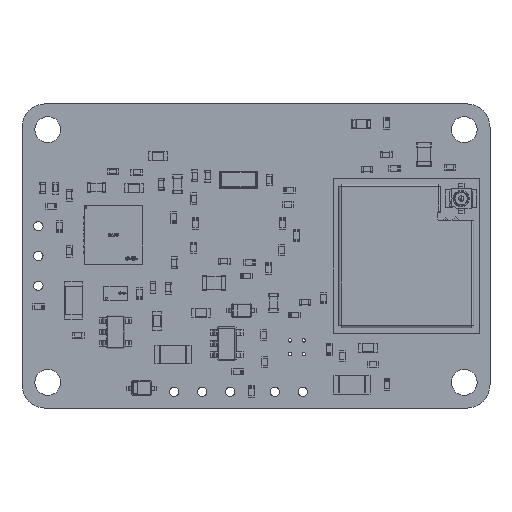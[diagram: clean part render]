
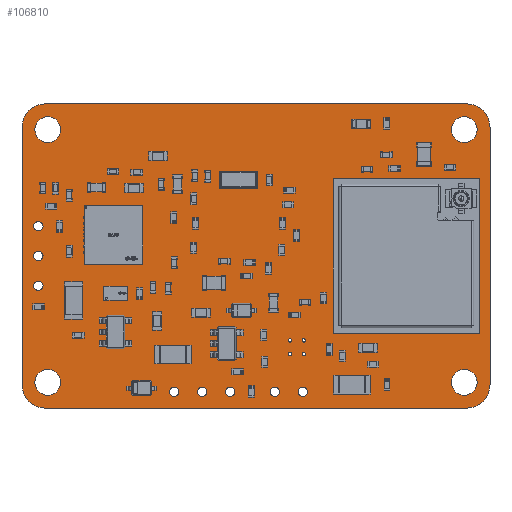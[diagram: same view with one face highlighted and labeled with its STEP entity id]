
A CAD part, top view. The second image highlights one B-rep face of the part: STEP entity #106810.
In plain terms, the highlighted planar face has unit normal (0, 0, 1).
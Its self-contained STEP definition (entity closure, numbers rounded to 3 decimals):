
#106485 = VERTEX_POINT('',#106486);
#106486 = CARTESIAN_POINT('',(118.,13.,0.91));
#106492 = EDGE_CURVE('',#106485,#106493,#106495,.T.);
#106493 = VERTEX_POINT('',#106494);
#106494 = CARTESIAN_POINT('',(120.,11.,0.91));
#106495 = CIRCLE('',#106496,2.);
#106496 = AXIS2_PLACEMENT_3D('',#106497,#106498,#106499);
#106497 = CARTESIAN_POINT('',(118.,11.,0.91));
#106498 = DIRECTION('',(0.,0.,-1.));
#106499 = DIRECTION('',(0.,1.,0.));
#106527 = VERTEX_POINT('',#106528);
#106528 = CARTESIAN_POINT('',(82.,13.,0.91));
#106534 = EDGE_CURVE('',#106527,#106485,#106535,.T.);
#106535 = LINE('',#106536,#106537);
#106536 = CARTESIAN_POINT('',(82.,13.,0.91));
#106537 = VECTOR('',#106538,1.);
#106538 = DIRECTION('',(1.,0.,0.));
#106556 = EDGE_CURVE('',#106493,#106557,#106559,.T.);
#106557 = VERTEX_POINT('',#106558);
#106558 = CARTESIAN_POINT('',(120.,-11.,0.91));
#106559 = LINE('',#106560,#106561);
#106560 = CARTESIAN_POINT('',(120.,11.,0.91));
#106561 = VECTOR('',#106562,1.);
#106562 = DIRECTION('',(0.,-1.,0.));
#106810 = ADVANCED_FACE('',(#106811,#106857,#106868,#106879,#106890,
    #106901,#106912,#106923,#106934,#106945,#106956,#106967,#106978,
    #106989,#107000,#107011,#107022),#107033,.T.);
#106811 = FACE_BOUND('',#106812,.T.);
#106812 = EDGE_LOOP('',(#106813,#106814,#106815,#106824,#106832,#106841,
    #106849,#106856));
#106813 = ORIENTED_EDGE('',*,*,#106492,.F.);
#106814 = ORIENTED_EDGE('',*,*,#106534,.F.);
#106815 = ORIENTED_EDGE('',*,*,#106816,.F.);
#106816 = EDGE_CURVE('',#106817,#106527,#106819,.T.);
#106817 = VERTEX_POINT('',#106818);
#106818 = CARTESIAN_POINT('',(80.,11.,0.91));
#106819 = CIRCLE('',#106820,2.);
#106820 = AXIS2_PLACEMENT_3D('',#106821,#106822,#106823);
#106821 = CARTESIAN_POINT('',(82.,11.,0.91));
#106822 = DIRECTION('',(0.,0.,-1.));
#106823 = DIRECTION('',(-1.,0.,-0.));
#106824 = ORIENTED_EDGE('',*,*,#106825,.F.);
#106825 = EDGE_CURVE('',#106826,#106817,#106828,.T.);
#106826 = VERTEX_POINT('',#106827);
#106827 = CARTESIAN_POINT('',(80.,-11.,0.91));
#106828 = LINE('',#106829,#106830);
#106829 = CARTESIAN_POINT('',(80.,-11.,0.91));
#106830 = VECTOR('',#106831,1.);
#106831 = DIRECTION('',(0.,1.,0.));
#106832 = ORIENTED_EDGE('',*,*,#106833,.F.);
#106833 = EDGE_CURVE('',#106834,#106826,#106836,.T.);
#106834 = VERTEX_POINT('',#106835);
#106835 = CARTESIAN_POINT('',(82.,-13.,0.91));
#106836 = CIRCLE('',#106837,2.);
#106837 = AXIS2_PLACEMENT_3D('',#106838,#106839,#106840);
#106838 = CARTESIAN_POINT('',(82.,-11.,0.91));
#106839 = DIRECTION('',(0.,0.,-1.));
#106840 = DIRECTION('',(0.,-1.,0.));
#106841 = ORIENTED_EDGE('',*,*,#106842,.F.);
#106842 = EDGE_CURVE('',#106843,#106834,#106845,.T.);
#106843 = VERTEX_POINT('',#106844);
#106844 = CARTESIAN_POINT('',(118.,-13.,0.91));
#106845 = LINE('',#106846,#106847);
#106846 = CARTESIAN_POINT('',(118.,-13.,0.91));
#106847 = VECTOR('',#106848,1.);
#106848 = DIRECTION('',(-1.,0.,0.));
#106849 = ORIENTED_EDGE('',*,*,#106850,.F.);
#106850 = EDGE_CURVE('',#106557,#106843,#106851,.T.);
#106851 = CIRCLE('',#106852,2.);
#106852 = AXIS2_PLACEMENT_3D('',#106853,#106854,#106855);
#106853 = CARTESIAN_POINT('',(118.,-11.,0.91));
#106854 = DIRECTION('',(0.,0.,-1.));
#106855 = DIRECTION('',(1.,0.,0.));
#106856 = ORIENTED_EDGE('',*,*,#106556,.F.);
#106857 = FACE_BOUND('',#106858,.T.);
#106858 = EDGE_LOOP('',(#106859));
#106859 = ORIENTED_EDGE('',*,*,#106860,.T.);
#106860 = EDGE_CURVE('',#106861,#106861,#106863,.T.);
#106861 = VERTEX_POINT('',#106862);
#106862 = CARTESIAN_POINT('',(82.2,-11.9,0.91));
#106863 = CIRCLE('',#106864,1.1);
#106864 = AXIS2_PLACEMENT_3D('',#106865,#106866,#106867);
#106865 = CARTESIAN_POINT('',(82.2,-10.8,0.91));
#106866 = DIRECTION('',(-0.,0.,-1.));
#106867 = DIRECTION('',(0.,-1.,-0.));
#106868 = FACE_BOUND('',#106869,.T.);
#106869 = EDGE_LOOP('',(#106870));
#106870 = ORIENTED_EDGE('',*,*,#106871,.T.);
#106871 = EDGE_CURVE('',#106872,#106872,#106874,.T.);
#106872 = VERTEX_POINT('',#106873);
#106873 = CARTESIAN_POINT('',(93.,-12.,0.91));
#106874 = CIRCLE('',#106875,0.4);
#106875 = AXIS2_PLACEMENT_3D('',#106876,#106877,#106878);
#106876 = CARTESIAN_POINT('',(93.,-11.6,0.91));
#106877 = DIRECTION('',(-0.,0.,-1.));
#106878 = DIRECTION('',(-0.,-1.,0.));
#106879 = FACE_BOUND('',#106880,.T.);
#106880 = EDGE_LOOP('',(#106881));
#106881 = ORIENTED_EDGE('',*,*,#106882,.T.);
#106882 = EDGE_CURVE('',#106883,#106883,#106885,.T.);
#106883 = VERTEX_POINT('',#106884);
#106884 = CARTESIAN_POINT('',(95.4,-12.,0.91));
#106885 = CIRCLE('',#106886,0.4);
#106886 = AXIS2_PLACEMENT_3D('',#106887,#106888,#106889);
#106887 = CARTESIAN_POINT('',(95.4,-11.6,0.91));
#106888 = DIRECTION('',(-0.,0.,-1.));
#106889 = DIRECTION('',(-0.,-1.,0.));
#106890 = FACE_BOUND('',#106891,.T.);
#106891 = EDGE_LOOP('',(#106892));
#106892 = ORIENTED_EDGE('',*,*,#106893,.T.);
#106893 = EDGE_CURVE('',#106894,#106894,#106896,.T.);
#106894 = VERTEX_POINT('',#106895);
#106895 = CARTESIAN_POINT('',(97.8,-12.,0.91));
#106896 = CIRCLE('',#106897,0.4);
#106897 = AXIS2_PLACEMENT_3D('',#106898,#106899,#106900);
#106898 = CARTESIAN_POINT('',(97.8,-11.6,0.91));
#106899 = DIRECTION('',(-0.,0.,-1.));
#106900 = DIRECTION('',(0.,-1.,0.));
#106901 = FACE_BOUND('',#106902,.T.);
#106902 = EDGE_LOOP('',(#106903));
#106903 = ORIENTED_EDGE('',*,*,#106904,.T.);
#106904 = EDGE_CURVE('',#106905,#106905,#106907,.T.);
#106905 = VERTEX_POINT('',#106906);
#106906 = CARTESIAN_POINT('',(81.4,-2.94,0.91));
#106907 = CIRCLE('',#106908,0.4);
#106908 = AXIS2_PLACEMENT_3D('',#106909,#106910,#106911);
#106909 = CARTESIAN_POINT('',(81.4,-2.54,0.91));
#106910 = DIRECTION('',(-0.,0.,-1.));
#106911 = DIRECTION('',(-0.,-1.,0.));
#106912 = FACE_BOUND('',#106913,.T.);
#106913 = EDGE_LOOP('',(#106914));
#106914 = ORIENTED_EDGE('',*,*,#106915,.T.);
#106915 = EDGE_CURVE('',#106916,#106916,#106918,.T.);
#106916 = VERTEX_POINT('',#106917);
#106917 = CARTESIAN_POINT('',(101.6,-12.,0.91));
#106918 = CIRCLE('',#106919,0.4);
#106919 = AXIS2_PLACEMENT_3D('',#106920,#106921,#106922);
#106920 = CARTESIAN_POINT('',(101.6,-11.6,0.91));
#106921 = DIRECTION('',(-0.,0.,-1.));
#106922 = DIRECTION('',(-0.,-1.,0.));
#106923 = FACE_BOUND('',#106924,.T.);
#106924 = EDGE_LOOP('',(#106925));
#106925 = ORIENTED_EDGE('',*,*,#106926,.T.);
#106926 = EDGE_CURVE('',#106927,#106927,#106929,.T.);
#106927 = VERTEX_POINT('',#106928);
#106928 = CARTESIAN_POINT('',(104.,-12.,0.91));
#106929 = CIRCLE('',#106930,0.4);
#106930 = AXIS2_PLACEMENT_3D('',#106931,#106932,#106933);
#106931 = CARTESIAN_POINT('',(104.,-11.6,0.91));
#106932 = DIRECTION('',(-0.,0.,-1.));
#106933 = DIRECTION('',(-0.,-1.,0.));
#106934 = FACE_BOUND('',#106935,.T.);
#106935 = EDGE_LOOP('',(#106936));
#106936 = ORIENTED_EDGE('',*,*,#106937,.T.);
#106937 = EDGE_CURVE('',#106938,#106938,#106940,.T.);
#106938 = VERTEX_POINT('',#106939);
#106939 = CARTESIAN_POINT('',(102.91,-8.54,0.91));
#106940 = CIRCLE('',#106941,0.15);
#106941 = AXIS2_PLACEMENT_3D('',#106942,#106943,#106944);
#106942 = CARTESIAN_POINT('',(102.91,-8.39,0.91));
#106943 = DIRECTION('',(-0.,0.,-1.));
#106944 = DIRECTION('',(-0.,-1.,0.));
#106945 = FACE_BOUND('',#106946,.T.);
#106946 = EDGE_LOOP('',(#106947));
#106947 = ORIENTED_EDGE('',*,*,#106948,.T.);
#106948 = EDGE_CURVE('',#106949,#106949,#106951,.T.);
#106949 = VERTEX_POINT('',#106950);
#106950 = CARTESIAN_POINT('',(104.09,-8.54,0.91));
#106951 = CIRCLE('',#106952,0.15);
#106952 = AXIS2_PLACEMENT_3D('',#106953,#106954,#106955);
#106953 = CARTESIAN_POINT('',(104.09,-8.39,0.91));
#106954 = DIRECTION('',(-0.,0.,-1.));
#106955 = DIRECTION('',(-0.,-1.,0.));
#106956 = FACE_BOUND('',#106957,.T.);
#106957 = EDGE_LOOP('',(#106958));
#106958 = ORIENTED_EDGE('',*,*,#106959,.T.);
#106959 = EDGE_CURVE('',#106960,#106960,#106962,.T.);
#106960 = VERTEX_POINT('',#106961);
#106961 = CARTESIAN_POINT('',(102.91,-7.36,0.91));
#106962 = CIRCLE('',#106963,0.15);
#106963 = AXIS2_PLACEMENT_3D('',#106964,#106965,#106966);
#106964 = CARTESIAN_POINT('',(102.91,-7.21,0.91));
#106965 = DIRECTION('',(-0.,0.,-1.));
#106966 = DIRECTION('',(-0.,-1.,0.));
#106967 = FACE_BOUND('',#106968,.T.);
#106968 = EDGE_LOOP('',(#106969));
#106969 = ORIENTED_EDGE('',*,*,#106970,.T.);
#106970 = EDGE_CURVE('',#106971,#106971,#106973,.T.);
#106971 = VERTEX_POINT('',#106972);
#106972 = CARTESIAN_POINT('',(104.09,-7.36,0.91));
#106973 = CIRCLE('',#106974,0.15);
#106974 = AXIS2_PLACEMENT_3D('',#106975,#106976,#106977);
#106975 = CARTESIAN_POINT('',(104.09,-7.21,0.91));
#106976 = DIRECTION('',(-0.,0.,-1.));
#106977 = DIRECTION('',(-0.,-1.,0.));
#106978 = FACE_BOUND('',#106979,.T.);
#106979 = EDGE_LOOP('',(#106980));
#106980 = ORIENTED_EDGE('',*,*,#106981,.T.);
#106981 = EDGE_CURVE('',#106982,#106982,#106984,.T.);
#106982 = VERTEX_POINT('',#106983);
#106983 = CARTESIAN_POINT('',(117.8,-11.9,0.91));
#106984 = CIRCLE('',#106985,1.1);
#106985 = AXIS2_PLACEMENT_3D('',#106986,#106987,#106988);
#106986 = CARTESIAN_POINT('',(117.8,-10.8,0.91));
#106987 = DIRECTION('',(-0.,0.,-1.));
#106988 = DIRECTION('',(0.,-1.,0.));
#106989 = FACE_BOUND('',#106990,.T.);
#106990 = EDGE_LOOP('',(#106991));
#106991 = ORIENTED_EDGE('',*,*,#106992,.T.);
#106992 = EDGE_CURVE('',#106993,#106993,#106995,.T.);
#106993 = VERTEX_POINT('',#106994);
#106994 = CARTESIAN_POINT('',(81.4,-0.4,0.91));
#106995 = CIRCLE('',#106996,0.4);
#106996 = AXIS2_PLACEMENT_3D('',#106997,#106998,#106999);
#106997 = CARTESIAN_POINT('',(81.4,0.,0.91));
#106998 = DIRECTION('',(-0.,0.,-1.));
#106999 = DIRECTION('',(-0.,-1.,0.));
#107000 = FACE_BOUND('',#107001,.T.);
#107001 = EDGE_LOOP('',(#107002));
#107002 = ORIENTED_EDGE('',*,*,#107003,.T.);
#107003 = EDGE_CURVE('',#107004,#107004,#107006,.T.);
#107004 = VERTEX_POINT('',#107005);
#107005 = CARTESIAN_POINT('',(81.4,2.14,0.91));
#107006 = CIRCLE('',#107007,0.4);
#107007 = AXIS2_PLACEMENT_3D('',#107008,#107009,#107010);
#107008 = CARTESIAN_POINT('',(81.4,2.54,0.91));
#107009 = DIRECTION('',(-0.,0.,-1.));
#107010 = DIRECTION('',(-0.,-1.,0.));
#107011 = FACE_BOUND('',#107012,.T.);
#107012 = EDGE_LOOP('',(#107013));
#107013 = ORIENTED_EDGE('',*,*,#107014,.T.);
#107014 = EDGE_CURVE('',#107015,#107015,#107017,.T.);
#107015 = VERTEX_POINT('',#107016);
#107016 = CARTESIAN_POINT('',(82.2,9.7,0.91));
#107017 = CIRCLE('',#107018,1.1);
#107018 = AXIS2_PLACEMENT_3D('',#107019,#107020,#107021);
#107019 = CARTESIAN_POINT('',(82.2,10.8,0.91));
#107020 = DIRECTION('',(-0.,0.,-1.));
#107021 = DIRECTION('',(0.,-1.,-0.));
#107022 = FACE_BOUND('',#107023,.T.);
#107023 = EDGE_LOOP('',(#107024));
#107024 = ORIENTED_EDGE('',*,*,#107025,.T.);
#107025 = EDGE_CURVE('',#107026,#107026,#107028,.T.);
#107026 = VERTEX_POINT('',#107027);
#107027 = CARTESIAN_POINT('',(117.8,9.7,0.91));
#107028 = CIRCLE('',#107029,1.1);
#107029 = AXIS2_PLACEMENT_3D('',#107030,#107031,#107032);
#107030 = CARTESIAN_POINT('',(117.8,10.8,0.91));
#107031 = DIRECTION('',(-0.,0.,-1.));
#107032 = DIRECTION('',(0.,-1.,0.));
#107033 = PLANE('',#107034);
#107034 = AXIS2_PLACEMENT_3D('',#107035,#107036,#107037);
#107035 = CARTESIAN_POINT('',(0.,0.,0.91));
#107036 = DIRECTION('',(0.,0.,1.));
#107037 = DIRECTION('',(1.,0.,-0.));
